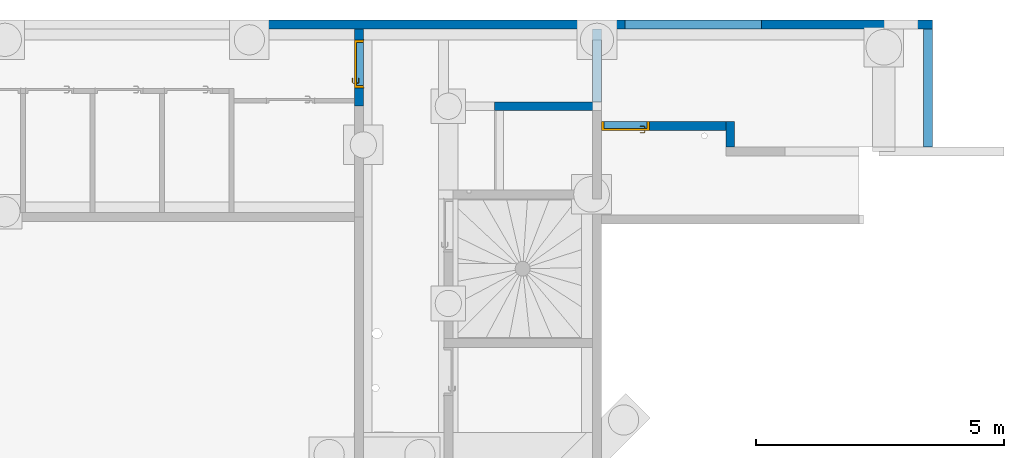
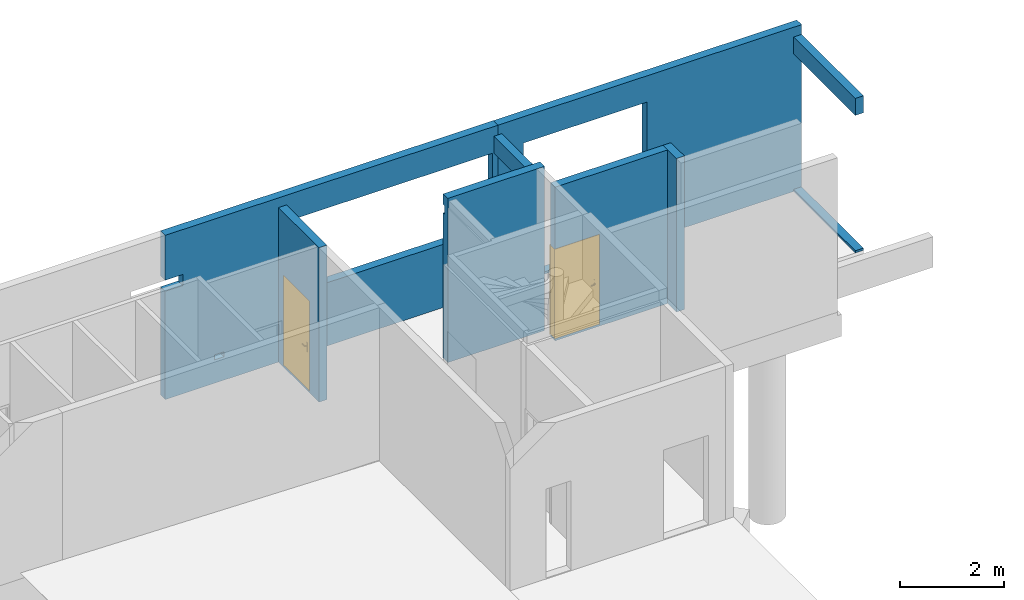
"""IFC2X3 building model written with IfcOpenShell, lengths in centimetres."""

from ifc_helpers import new_model, entity, si_unit, converted_unit, derived_unit, direction, frame, frame_2d, origin, place, context, subcontext, project, spatial, rectangle, extrude, faceted_brep, source, transform, mapped, material, material_list, layer, layer_set, layer_usage, type_object, type_shapes, element, fill, save


model = new_model("IFC2X3")

# Units and contexts
model_context = context("Model", 3, precision=0.001, world=origin(), true_north=direction((6.12303176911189e-17, 1.0)))
body_context = subcontext(model_context, "Body", "Model", "MODEL_VIEW")
ifc_project = project(units=[si_unit("LENGTHUNIT", "METRE", prefix="CENTI"), si_unit("AREAUNIT", "SQUARE_METRE"), si_unit("VOLUMEUNIT", "CUBIC_METRE"), converted_unit("PLANEANGLEUNIT", "DEGREE", entity("IfcRatioMeasure", 0.0174532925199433), si_unit("PLANEANGLEUNIT", "RADIAN"), dimensions=[0, 0, 0, 0, 0, 0, 0]), si_unit("MASSUNIT", "GRAM", prefix="KILO"), derived_unit("MASSDENSITYUNIT", [(si_unit("MASSUNIT", "GRAM", prefix="KILO"), 1), (si_unit("LENGTHUNIT", "METRE"), -3)]), si_unit("TIMEUNIT", "SECOND"), si_unit("FREQUENCYUNIT", "HERTZ"), si_unit("THERMODYNAMICTEMPERATUREUNIT", "DEGREE_CELSIUS"), derived_unit("THERMALTRANSMITTANCEUNIT", [(si_unit("MASSUNIT", "GRAM", prefix="KILO"), 1), (si_unit("THERMODYNAMICTEMPERATUREUNIT", "KELVIN"), -1), (si_unit("TIMEUNIT", "SECOND"), -3)]), derived_unit("VOLUMETRICFLOWRATEUNIT", [(si_unit("LENGTHUNIT", "METRE"), 3), (si_unit("TIMEUNIT", "SECOND"), -1)]), si_unit("ELECTRICCURRENTUNIT", "AMPERE"), si_unit("ELECTRICVOLTAGEUNIT", "VOLT"), si_unit("POWERUNIT", "WATT"), si_unit("FORCEUNIT", "NEWTON"), si_unit("ILLUMINANCEUNIT", "LUX"), si_unit("LUMINOUSFLUXUNIT", "LUMEN"), si_unit("LUMINOUSINTENSITYUNIT", "CANDELA"), derived_unit("USERDEFINED", [(si_unit("MASSUNIT", "GRAM", prefix="KILO"), -1), (si_unit("LENGTHUNIT", "METRE"), -2), (si_unit("TIMEUNIT", "SECOND"), 3), (si_unit("LUMINOUSFLUXUNIT", "LUMEN"), 1)]), derived_unit("LINEARVELOCITYUNIT", [(si_unit("LENGTHUNIT", "METRE"), 1), (si_unit("TIMEUNIT", "SECOND"), -1)]), si_unit("PRESSUREUNIT", "PASCAL"), derived_unit("USERDEFINED", [(si_unit("LENGTHUNIT", "METRE"), -2), (si_unit("MASSUNIT", "GRAM", prefix="KILO"), 1), (si_unit("TIMEUNIT", "SECOND"), -2)])], contexts=[model_context])

# Site, building, storey
site_placement = place(None, origin())
site = spatial("IfcSite", under=ifc_project, at=site_placement, Name="Default", CompositionType="ELEMENT")
building_placement = place(site_placement, origin())
building = spatial("IfcBuilding", under=site, at=building_placement, Name="CAGE 03", CompositionType="ELEMENT")
storey_1_placement = place(building_placement, frame((0.0, 0.0, -42.0)))
storey_1 = spatial("IfcBuildingStorey", under=building, at=storey_1_placement, Name="+3.58", CompositionType="ELEMENT", Elevation=-42.0000000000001)

# Wall, openings
ifc_material_1 = material(Name="Béton, C25/30")
ifc_layer = layer(ifc_material_1, 18.0)
ifc_layer_set = layer_set([ifc_layer], Name="Mur de base:Voile BA 18")
ifc_layer_usage_1 = layer_usage(ifc_layer_set, "AXIS2", "POSITIVE", -9.0)
wall_type = type_object("IfcWallType", Name="Mur de base:Voile BA 18", PredefinedType="STANDARD", material=ifc_layer_set)
wall_1_placement = place(storey_1_placement, frame((11176.3658201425, 5284.66066607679, -5.0), z_axis=(0.0, 0.0, 1.0), x_axis=(-1.0, 0.0, 0.0)))
wall_1 = element("IfcWallStandardCase", 1, at=wall_1_placement, inside=storey_1, type_object=wall_type, material=ifc_layer_usage_1, Name="Mur de base:Voile BA 18", ObjectType="Mur de base:Voile BA 18", context=body_context, shape_type="SweptSolid", body=[
    extrude(rectangle(XDim=676.999999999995, YDim=17.9999999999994, at=frame_2d((338.499999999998, 1.15463194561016e-13), x_axis=(-1.0, 0.0))), origin(), (0.0, 0.0, 1.0), 387.0),
])
opening_1_placement = place(wall_1_placement, origin())
element("IfcOpeningElement", 2, at=opening_1_placement, cuts=wall_1, Name="Mur de base:Voile BA 18", ObjectType="Opening", context=body_context, shape_type="SweptSolid", body=[
    extrude(rectangle(XDim=319.0, YDim=17.9999999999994, at=frame_2d((0.0, 0.0), x_axis=(0.0, 1.0))), frame((9.0, 9.0, 164.5), z_axis=(0.0, 1.0, 0.0), x_axis=(-1.0, 0.0, 0.0)), (0.0, 0.0, 1.0), 238.499999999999),
])
opening_2_placement = place(wall_1_placement, frame((11176.3658201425, 5284.66066607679, 0.0), z_axis=(0.0, 0.0, 1.0), x_axis=(-1.0, 0.0, 0.0)))
element("IfcOpeningElement", 3, at=opening_2_placement, cuts=wall_1, Name="Mur de base:Voile BA 18", ObjectType="Opening", context=body_context, shape_type="SweptSolid", body=[
    extrude(rectangle(XDim=320.0, YDim=275.000000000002, at=frame_2d((-8.66862137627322e-13, 0.0), x_axis=(0.0, 1.0))), frame((10693.8658201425, 5428.06066607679, 165.0), z_axis=(0.0, -1.0, 0.0), x_axis=(1.0, 0.0, 0.0)), (0.0, 0.0, 1.0), 304.8),
])

# Wall, opening
ifc_layer_usage_2 = layer_usage(ifc_layer_set, "AXIS2", "POSITIVE", -9.0)
wall_2_placement = place(storey_1_placement, frame((10499.3658201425, 5275.66066607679, -5.0), z_axis=(0.0, 0.0, 1.0), x_axis=(0.0, -1.0, 0.0)))
wall_2 = element("IfcWallStandardCase", 4, at=wall_2_placement, inside=storey_1, type_object=wall_type, material=ifc_layer_usage_2, Name="Mur de base:Voile BA 18", ObjectType="Mur de base:Voile BA 18", context=body_context, shape_type="SweptSolid", body=[
    extrude(rectangle(XDim=146.999999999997, YDim=17.9999999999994, at=frame_2d((73.4999999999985, 9.9475983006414e-14), x_axis=(-1.0, 0.0))), origin(), (0.0, 0.0, 1.0), 364.0),
])
opening_3_placement = place(wall_2_placement, frame((5275.66066607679, -10499.3658201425, 0.0), z_axis=(0.0, 0.0, 1.0), x_axis=(0.0, 1.0, 0.0)))
element("IfcOpeningElement", 5, at=opening_3_placement, cuts=wall_2, Name="Mur de base:Voile BA 18", ObjectType="Opening", context=body_context, shape_type="SweptSolid", body=[
    extrude(rectangle(XDim=319.0, YDim=147.0, at=frame_2d((0.0, -4.33431068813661e-13), x_axis=(1.0, 0.0))), frame((10337.9658201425, 5202.16066607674, 164.5), z_axis=(1.0, 0.0, 0.0), x_axis=(0.0, 0.0, 1.0)), (0.0, 0.0, 1.0), 304.8),
])

# Wall, openings
ifc_layer_usage_3 = layer_usage(ifc_layer_set, "AXIS2", "POSITIVE", -9.0)
wall_3_placement = place(storey_1_placement, frame((10508.3658201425, 5119.66066607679, -5.0), z_axis=(0.0, 0.0, 1.0), x_axis=(-1.0, 0.0, 0.0)))
wall_3 = element("IfcWallStandardCase", 6, at=wall_3_placement, inside=storey_1, type_object=wall_type, material=ifc_layer_usage_3, Name="Mur de base:Voile BA 18", ObjectType="Mur de base:Voile BA 18", context=body_context, shape_type="SweptSolid", body=[
    extrude(rectangle(XDim=215.999999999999, YDim=17.9999999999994, at=frame_2d((108.0, -1.28785870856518e-13), x_axis=(-1.0, 0.0))), origin(), (0.0, 0.0, 1.0), 387.0),
])
opening_4_placement = place(storey_1_placement, frame((10508.3658201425, 5119.66066607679, -5.0), z_axis=(0.0, 0.0, 1.0), x_axis=(-1.0, 0.0, 0.0)))
element("IfcOpeningElement", 7, at=opening_4_placement, cuts=wall_3, Name="Mur de base:Voile BA 18:1", ObjectType="Opening", context=body_context, shape_type="SweptSolid", body=[
    extrude(rectangle(XDim=198.0, YDim=5.50000000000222, at=frame_2d((0.0, 4.33209024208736e-13), x_axis=(1.0, 0.0))), frame((117.0, -6.24999999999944, 342.0), z_axis=(0.0, 0.0, 1.0), x_axis=(-1.0, 0.0, 0.0)), (0.0, 0.0, 1.0), 20.0),
])
opening_5_placement = place(wall_3_placement, origin())
element("IfcOpeningElement", 8, at=opening_5_placement, cuts=wall_3, Name="Mur de base:Voile BA 18", ObjectType="Opening", context=body_context, shape_type="SweptSolid", body=[
    extrude(rectangle(XDim=232.0, YDim=17.9999999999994, at=frame_2d((0.0, 0.0), x_axis=(0.0, 1.0))), frame((207.0, 9.0, 116.0), z_axis=(0.0, 1.0, 0.0), x_axis=(-1.0, 0.0, 0.0)), (0.0, 0.0, 1.0), 160.0),
])
opening_6_placement = place(wall_3_placement, origin())
element("IfcOpeningElement", 9, at=opening_6_placement, cuts=wall_3, Name="Mur de base:Voile BA 18", ObjectType="Opening", context=body_context, shape_type="SweptSolid", body=[
    extrude(rectangle(XDim=319.0, YDim=17.9999999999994, at=frame_2d((0.0, 0.0), x_axis=(0.0, 1.0))), frame((9.0, -156.0, 164.5), z_axis=(0.0, 1.0, 0.0), x_axis=(1.0, 0.0, 0.0)), (0.0, 0.0, 1.0), 146.999999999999),
])

# Wall, opening, door
ifc_layer_usage_4 = layer_usage(ifc_layer_set, "AXIS2", "POSITIVE", -9.0)
wall_4_placement = place(storey_1_placement, frame((10019.3658201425, 5119.66066607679, -5.0), z_axis=(0.0, 0.0, 1.0), x_axis=(0.0, 1.0, 0.0)))
wall_4 = element("IfcWallStandardCase", 10, at=wall_4_placement, inside=storey_1, type_object=wall_type, material=ifc_layer_usage_4, Name="Mur de base:Voile BA 18", ObjectType="Mur de base:Voile BA 18", context=body_context, shape_type="SweptSolid", body=[
    extrude(rectangle(XDim=155.999999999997, YDim=17.9999999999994, at=frame_2d((77.9999999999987, 1.64313007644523e-13), x_axis=(-1.0, 0.0))), origin(), (0.0, 0.0, 1.0), 364.0),
])
opening_7_placement = place(wall_4_placement, frame((37.0, -9.0, 5.0)))
opening_7 = element("IfcOpeningElement", 11, at=opening_7_placement, cuts=wall_4, Name="Int. Simple:HB93:1", ObjectType="Opening", context=body_context, shape_type="SweptSolid", body=[
    extrude(rectangle(XDim=210.000000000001, YDim=96.9999999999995, at=frame_2d((105.000000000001, 48.4999999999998), x_axis=(1.0, 0.0))), frame((0.0, 0.0, 0.0), z_axis=(0.0, 1.0, 0.0), x_axis=(0.0, 0.0, 1.0)), (0.0, 0.0, 1.0), 18.0),
])
ifc_material_2 = material(Name="Finition Peinture - Blanc satiné")
ifc_material_3 = material(Name="Bois - Panneau de porte")
ifc_material_4 = material(Name="Bois - Cadre de porte")
ifc_material_list_1 = material_list([ifc_material_2, ifc_material_3, ifc_material_4])
ifc_material_list_2 = material_list([ifc_material_2, ifc_material_3, ifc_material_4])
door_style = type_object("IfcDoorStyle", Name="HB93", ConstructionType="NOTDEFINED", OperationType="SINGLE_SWING_RIGHT", ParameterTakesPrecedence=False, Sizeable=False, material=ifc_material_list_2)
shared_shape = source(origin(), body_context, "Body", "Brep", [
    faceted_brep([(96.5000000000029, -0.500000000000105, 87.0), (96.5000000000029, -0.500000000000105, 108.0), (95.535276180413, -0.500000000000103, 108.399601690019), (94.5000000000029, -0.500000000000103, 108.535898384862), (93.4647238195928, -0.500000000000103, 108.399601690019), (92.5000000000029, -0.500000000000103, 108.0), (92.5000000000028, -0.500000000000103, 87.0), (93.4647238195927, -0.500000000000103, 86.6003983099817), (94.5000000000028, -0.500000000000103, 86.464101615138), (95.5352761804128, -0.500000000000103, 86.6003983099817), (96.5000000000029, 0.0, 108.0), (96.5000000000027, 0.0, 87.0), (95.5352761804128, 0.0, 86.6003983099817), (94.5000000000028, 0.0, 86.464101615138), (93.4647238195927, 0.0, 86.6003983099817), (92.5000000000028, 0.0, 87.0), (92.5000000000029, 0.0, 108.0), (93.4647238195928, 0.0, 108.399601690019), (94.5000000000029, 0.0, 108.535898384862), (95.535276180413, 0.0, 108.399601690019)], [[[0, 1, 2, 3, 4, 5, 6, 7, 8, 9]], [[10, 11, 12, 13, 14, 15, 16, 17, 18, 19]], [[9, 12, 11, 0]], [[8, 13, 12, 9]], [[7, 14, 13, 8]], [[7, 6, 15, 14]], [[15, 6, 5, 16]], [[4, 17, 16, 5]], [[3, 18, 17, 4]], [[2, 19, 18, 3]], [[2, 1, 10, 19]], [[11, 10, 1, 0]]]),
    faceted_brep([(96.5000000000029, 4.0, 87.0), (96.5000000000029, 4.0, 108.0), (95.535276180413, 4.0, 108.399601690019), (94.5000000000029, 4.0, 108.535898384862), (93.4647238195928, 4.0, 108.399601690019), (92.500000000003, 4.0, 108.0), (92.5000000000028, 4.0, 87.0), (93.4647238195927, 4.0, 86.6003983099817), (94.5000000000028, 4.0, 86.464101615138), (95.5352761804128, 4.0, 86.6003983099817), (94.5000000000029, 4.49999999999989, 108.535898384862), (95.535276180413, 4.49999999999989, 108.399601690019), (96.5000000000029, 4.49999999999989, 108.0), (96.5000000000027, 4.49999999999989, 87.0), (95.5352761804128, 4.49999999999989, 86.6003983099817), (94.5000000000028, 4.49999999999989, 86.464101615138), (93.4647238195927, 4.49999999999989, 86.6003983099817), (92.5000000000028, 4.4999999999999, 87.0), (92.5000000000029, 4.4999999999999, 108.0), (93.4647238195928, 4.49999999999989, 108.399601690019)], [[[0, 1, 2, 3, 4, 5, 6, 7, 8, 9]], [[10, 11, 12, 13, 14, 15, 16, 17, 18, 19]], [[4, 19, 18, 5]], [[3, 10, 19, 4]], [[2, 11, 10, 3]], [[2, 1, 12, 11]], [[13, 12, 1, 0]], [[9, 14, 13, 0]], [[8, 15, 14, 9]], [[7, 16, 15, 8]], [[7, 6, 17, 16]], [[17, 6, 5, 18]]]),
    faceted_brep([(94.2974701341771, -0.500000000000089, 100.778044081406), (94.7025298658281, -0.500000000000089, 100.778044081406), (95.100000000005, -0.500000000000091, 100.699999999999), (95.100000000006, -0.500000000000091, 99.2999999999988), (94.7025298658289, -0.500000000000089, 99.221955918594), (94.297470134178, -0.500000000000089, 99.2219559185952), (93.9000000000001, -0.500000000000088, 99.3000000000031), (93.9000000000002, -0.500000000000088, 100.7), (94.7025298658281, -3.10045754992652, 100.778044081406), (95.1000000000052, -3.26509507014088, 100.7), (94.2974701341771, -2.93267631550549, 100.778044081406), (92.9298602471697, -4.30028620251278, 100.778044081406), (93.0976414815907, -4.70534593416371, 100.778044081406), (93.9000000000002, -2.76803879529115, 100.7), (93.9000000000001, -2.76803879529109, 99.3000000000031), (94.297470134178, -2.93267631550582, 99.2219559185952), (94.7025298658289, -3.10045754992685, 99.221955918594), (93.0976414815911, -4.70534593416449, 99.221955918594), (92.9298602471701, -4.30028620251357, 99.2219559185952), (95.100000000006, -3.26509507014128, 99.2999999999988), (93.2622790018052, -5.1028160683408, 100.7), (92.7652227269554, -3.90281606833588, 100.7), (92.7652227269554, -3.90281606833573, 99.3000000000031), (93.2622790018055, -5.10281606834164, 99.2999999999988), (84.4981359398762, -5.10281606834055, 100.7), (84.4981359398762, -4.70534593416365, 100.778044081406), (84.4981359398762, -4.30028620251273, 100.778044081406), (84.4981359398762, -3.90281606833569, 100.699999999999), (84.4981359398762, -3.90281606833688, 99.3000000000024), (84.4981359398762, -4.30028620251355, 99.2219559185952), (84.4981359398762, -4.70534593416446, 99.221955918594), (84.4981359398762, -5.10281606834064, 99.2999999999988), (88.7139980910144, -4.5028160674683, 100.78786867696), (89.2692302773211, -5.1028160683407, 100.7), (88.6316793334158, -3.90281606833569, 100.7), (88.631679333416, -3.90281606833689, 99.3000000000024), (88.7139981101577, -4.50281607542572, 99.2121313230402), (89.2692310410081, -5.10281606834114, 99.2999999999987)], [[[0, 1, 2, 3, 4, 5, 6, 7]], [[2, 1, 8, 9]], [[1, 0, 10, 11, 12, 8]], [[0, 7, 13, 10]], [[14, 13, 7, 6]], [[5, 15, 14, 6]], [[5, 4, 16, 17, 18, 15]], [[3, 19, 16, 4]], [[9, 19, 3, 2]], [[9, 8, 12, 20]], [[10, 13, 21, 11]], [[22, 21, 13, 14]], [[14, 15, 18, 22]], [[16, 19, 23, 17]], [[20, 23, 19, 9]], [[24, 25, 26, 27, 28, 29, 30, 31]], [[32, 25, 33]], [[33, 25, 24]], [[33, 20, 12]], [[11, 34, 32]], [[34, 11, 21]], [[27, 26, 34]], [[32, 26, 25]], [[32, 34, 26]], [[32, 33, 12]], [[11, 32, 12]], [[21, 22, 35, 28, 27, 34]], [[36, 29, 35]], [[30, 36, 37]], [[18, 35, 22]], [[29, 28, 35]], [[30, 37, 31]], [[37, 17, 23]], [[36, 17, 37]], [[36, 18, 17]], [[36, 35, 18]], [[29, 36, 30]], [[23, 20, 33, 24, 31, 37]]]),
    faceted_brep([(94.2974701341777, 4.49999999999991, 99.2219559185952), (94.7025298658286, 4.49999999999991, 99.221955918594), (95.1000000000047, 4.49999999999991, 99.2999999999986), (95.1000000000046, 4.49999999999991, 100.7), (94.7025298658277, 4.49999999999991, 100.778044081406), (94.2974701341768, 4.49999999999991, 100.778044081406), (93.8999999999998, 4.49999999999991, 100.7), (93.900000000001, 4.49999999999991, 99.3000000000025), (93.8999999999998, 6.7485204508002, 100.7), (93.8999999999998, 6.74852045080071, 99.3000000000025), (94.2974701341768, 6.91315797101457, 100.778044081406), (94.7025298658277, 7.0809392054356, 100.778044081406), (93.0838906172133, 8.69957845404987, 100.778044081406), (92.9161093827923, 8.29451872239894, 100.778044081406), (95.1000000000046, 7.24557672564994, 100.7), (95.1000000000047, 7.24557672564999, 99.2999999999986), (94.7025298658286, 7.08093920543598, 99.221955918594), (94.2974701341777, 6.91315797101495, 99.2219559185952), (92.9161093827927, 8.29451872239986, 99.2219559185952), (93.0838906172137, 8.69957845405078, 99.221955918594), (92.751471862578, 7.89704858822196, 100.7), (92.7514718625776, 7.89704858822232, 99.3000000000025), (93.2485281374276, 9.09704858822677, 100.7), (93.2485281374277, 9.09704858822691, 99.2999999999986), (84.4954216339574, 8.29451872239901, 100.778044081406), (84.4954216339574, 8.69957845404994, 100.778044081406), (84.4954216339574, 9.09704858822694, 100.7), (84.4954216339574, 9.09704858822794, 99.2999999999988), (84.4954216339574, 8.6995784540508, 99.221955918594), (84.4954216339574, 8.29451872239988, 99.2219559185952), (84.4954216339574, 7.89704858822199, 99.3000000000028), (84.4954216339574, 7.89704858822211, 100.7), (88.6234467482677, 7.89704858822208, 100.7), (88.6234479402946, 7.89704858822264, 99.3000000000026), (88.7057655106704, 8.49704858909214, 100.78786867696), (89.255479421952, 9.09704858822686, 100.7), (89.2554795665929, 9.09704858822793, 99.2999999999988), (88.7057654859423, 8.49704858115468, 99.2121313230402)], [[[0, 1, 2, 3, 4, 5, 6, 7]], [[8, 9, 7, 6]], [[5, 10, 8, 6]], [[5, 4, 11, 12, 13, 10]], [[3, 14, 11, 4]], [[14, 3, 2, 15]], [[2, 1, 16, 15]], [[1, 0, 17, 18, 19, 16]], [[0, 7, 9, 17]], [[20, 21, 9, 8]], [[8, 10, 13, 20]], [[14, 22, 12, 11]], [[23, 22, 14, 15]], [[15, 16, 19, 23]], [[17, 9, 21, 18]], [[24, 25, 26, 27, 28, 29, 30, 31]], [[21, 20, 32, 31, 30, 33]], [[34, 24, 32]], [[25, 34, 35]], [[13, 32, 20]], [[24, 31, 32]], [[25, 35, 26]], [[35, 12, 22]], [[34, 12, 35]], [[34, 13, 12]], [[34, 32, 13]], [[24, 34, 25]], [[22, 23, 36, 27, 26, 35]], [[37, 28, 36]], [[36, 28, 27]], [[36, 23, 19]], [[18, 33, 37]], [[33, 18, 21]], [[30, 29, 33]], [[37, 29, 28]], [[37, 33, 29]], [[37, 36, 19]], [[18, 37, 19]]]),
    faceted_brep([(100.500000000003, 4.0, 206.5), (100.500000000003, 4.0, 0.0), (10.5000000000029, 4.0, 0.0), (10.5000000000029, 4.0, 206.5), (100.500000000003, 0.0, 206.5), (10.5000000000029, 0.0, 206.5), (10.5000000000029, 0.0, 0.0), (100.500000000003, 0.0, 0.0)], [[[0, 1, 2, 3]], [[4, 5, 6, 7]], [[3, 5, 4, 0]], [[2, 6, 5, 3]], [[1, 7, 6, 2]], [[0, 4, 7, 1]]]),
    faceted_brep([(104.0, 0.0, 0.0), (100.500000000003, 0.0, 0.0), (100.500000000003, 4.0, 0.0), (99.0, 4.0, 0.0), (99.0, 18.0, 0.0), (104.0, 18.0, 0.0), (104.0, 18.0, 210.0), (104.0, 0.0, 210.0), (99.0, 18.0, 205.0), (12.0, 18.0, 205.0), (12.0, 18.0, 0.0), (7.0, 18.0, 0.0), (7.0, 18.0, 210.0), (99.0, 4.0, 205.0), (100.500000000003, 4.0, 206.5), (10.5000000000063, 4.0, 206.5), (10.5000000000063, 4.0, 0.0), (12.0, 4.0, 0.0), (12.0, 4.0, 205.0), (100.500000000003, 0.0, 206.5), (7.0, 0.0, 210.0), (7.0, 0.0, 0.0), (10.5000000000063, 0.0, 0.0), (10.5000000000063, 0.0, 206.5)], [[[0, 1, 2, 3, 4, 5]], [[5, 6, 7, 0]], [[4, 8, 9, 10, 11, 12, 6, 5]], [[3, 13, 8, 4]], [[2, 14, 15, 16, 17, 18, 13, 3]], [[1, 19, 14, 2]], [[0, 7, 20, 21, 22, 23, 19, 1]], [[12, 11, 21, 20]], [[21, 11, 10, 17, 16, 22]], [[18, 17, 10, 9]], [[23, 22, 16, 15]], [[6, 12, 20, 7]], [[13, 18, 9, 8]], [[19, 23, 15, 14]]]),
    faceted_brep([(102.500000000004, 18.0, 0.0), (102.500000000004, 18.5000000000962, 0.0), (105.500000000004, 18.5000000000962, 0.0), (105.500000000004, 18.0, 0.0), (105.500000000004, 18.0, 211.500000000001), (5.50000000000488, 18.0, 211.500000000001), (5.50000000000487, 18.0, 0.0), (8.50000000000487, 18.0, 0.0), (8.50000000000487, 18.0, 208.500000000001), (102.500000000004, 18.0, 208.500000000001), (105.500000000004, 18.5000000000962, 211.500000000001), (102.500000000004, 18.5000000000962, 208.500000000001), (8.50000000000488, 18.5000000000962, 208.500000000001), (8.50000000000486, 18.5000000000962, 0.0), (5.50000000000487, 18.5000000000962, 0.0), (5.50000000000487, 18.5000000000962, 211.500000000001)], [[[0, 1, 2, 3]], [[3, 4, 5, 6, 7, 8, 9, 0]], [[2, 10, 4, 3]], [[1, 11, 12, 13, 14, 15, 10, 2]], [[0, 9, 11, 1]], [[7, 6, 14, 13]], [[8, 7, 13, 12]], [[15, 14, 6, 5]], [[10, 15, 5, 4]], [[9, 8, 12, 11]]]),
    faceted_brep([(105.500000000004, -0.5, 0.0), (105.500000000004, -0.5, 211.500000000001), (5.50000000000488, -0.5, 211.500000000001), (5.50000000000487, -0.5, 0.0), (8.50000000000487, -0.5, 0.0), (8.50000000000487, -0.5, 208.500000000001), (102.500000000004, -0.5, 208.500000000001), (102.500000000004, -0.5, 0.0), (105.500000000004, 0.0, 0.0), (105.500000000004, 0.0, 211.500000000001), (102.500000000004, 0.0, 0.0), (102.500000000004, 0.0, 208.500000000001), (8.50000000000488, 0.0, 208.500000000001), (8.50000000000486, 0.0, 0.0), (5.50000000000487, 0.0, 0.0), (5.50000000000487, 0.0, 211.500000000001)], [[[0, 1, 2, 3, 4, 5, 6, 7]], [[8, 9, 1, 0]], [[10, 11, 12, 13, 14, 15, 9, 8]], [[7, 6, 11, 10]], [[5, 4, 13, 12]], [[15, 14, 3, 2]], [[9, 15, 2, 1]], [[6, 5, 12, 11]], [[4, 3, 14, 13]], [[7, 10, 8, 0]]]),
])
type_shapes(door_style, [shared_shape])
door_1_placement = place(opening_7_placement, frame((104.0, 18.0, 0.0), z_axis=(0.0, 0.0, 1.0), x_axis=(-1.0, 0.0, 0.0)))
door_1 = element("IfcDoor", 12, at=door_1_placement, inside=storey_1, type_object=door_style, material=ifc_material_list_1, Name="Int. Simple:HB93", ObjectType="HB93", OverallHeight=210.000000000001, OverallWidth=96.9999999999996, context=body_context, shape_type="MappedRepresentation", body=[
    mapped(shared_shape, transform((0.0, 0.0, 0.0), scale=1.0)),
])
fill(opening_7, door_1)

# Wall, openings
ifc_layer_usage_5 = layer_usage(ifc_layer_set, "AXIS2", "POSITIVE", -9.0)
wall_5_placement = place(storey_1_placement, frame((10499.3658201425, 5284.66066607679, -5.0), z_axis=(0.0, 0.0, 1.0), x_axis=(-1.0, 0.0, 0.0)))
wall_5 = element("IfcWallStandardCase", 13, at=wall_5_placement, inside=storey_1, type_object=wall_type, material=ifc_layer_usage_5, Name="Mur de base:Voile BA 18", ObjectType="Mur de base:Voile BA 18", context=body_context, shape_type="SweptSolid", body=[
    extrude(rectangle(XDim=741.499999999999, YDim=17.9999999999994, at=frame_2d((370.75, 1.77635683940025e-13), x_axis=(-1.0, 0.0))), origin(), (0.0, 0.0, 1.0), 387.0),
])
opening_8_placement = place(storey_1_placement, frame((10499.3658201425, 5284.66066607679, -5.0), z_axis=(0.0, 0.0, 1.0), x_axis=(-1.0, 0.0, 0.0)))
element("IfcOpeningElement", 14, at=opening_8_placement, cuts=wall_5, Name="Mur de base:Voile BA 18:1", ObjectType="Opening", context=body_context, shape_type="SweptSolid", body=[
    extrude(rectangle(XDim=18.0000000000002, YDim=21.9999999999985, at=frame_2d((8.66862137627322e-13, -8.65973959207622e-13), x_axis=(1.0, 0.0))), frame((621.0, 0.0, 55.0), z_axis=(0.0, 0.0, 1.0), x_axis=(0.0, 1.0, 0.0)), (0.0, 0.0, 1.0), 12.0),
])
opening_9_placement = place(wall_5_placement, origin())
element("IfcOpeningElement", 15, at=opening_9_placement, cuts=wall_5, Name="Mur de base:Voile BA 18", ObjectType="Opening", context=body_context, shape_type="SweptSolid", body=[
    extrude(rectangle(XDim=25.9999999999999, YDim=116.0, at=frame_2d((1.33226762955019e-14, 8.66862137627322e-13), x_axis=(1.0, 0.0))), frame((760.0, -143.400000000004, 268.0), z_axis=(0.0, 1.0, 0.0), x_axis=(0.0, 0.0, -1.0)), (0.0, 0.0, 1.0), 304.8),
])
opening_10_placement = place(wall_5_placement, origin())
element("IfcOpeningElement", 16, at=opening_10_placement, cuts=wall_5, Name="Mur de base:Voile BA 18", ObjectType="Opening", context=body_context, shape_type="SweptSolid", body=[
    extrude(rectangle(XDim=210.000000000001, YDim=9.99999999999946, at=frame_2d((-8.66418048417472e-13, -7.105427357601e-15), x_axis=(0.0, 1.0))), frame((1298.0, 9.0, 110.0), z_axis=(0.0, 1.0, 0.0), x_axis=(1.0, 0.0, 0.0)), (0.0, 0.0, 1.0), 96.9999999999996),
])
opening_11_placement = place(wall_5_placement, frame((10499.3658201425, 5284.66066607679, 0.0), z_axis=(0.0, 0.0, 1.0), x_axis=(-1.0, 0.0, 0.0)))
element("IfcOpeningElement", 17, at=opening_11_placement, cuts=wall_5, Name="Mur de base:Voile BA 18", ObjectType="Opening", context=body_context, shape_type="SweptSolid", body=[
    extrude(rectangle(XDim=176.0, YDim=455.999999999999, at=frame_2d((8.66862137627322e-13, -1.4210854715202e-14), x_axis=(0.0, 1.0))), frame((10259.3658201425, 5428.06066607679, 237.0), z_axis=(0.0, -1.0, 0.0), x_axis=(1.0, 0.0, 0.0)), (0.0, 0.0, 1.0), 304.8),
])

# Wall
ifc_layer_usage_6 = layer_usage(ifc_layer_set, "AXIS2", "POSITIVE", -9.0)
wall_6_placement = place(storey_1_placement, frame((10768.3658201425, 5088.66066607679, -5.0), z_axis=(0.0, 0.0, 1.0), x_axis=(0.0, -1.0, 0.0)))
element("IfcWallStandardCase", 18, at=wall_6_placement, inside=storey_1, type_object=wall_type, material=ifc_layer_usage_6, Name="Mur de base:Voile BA 18", ObjectType="Mur de base:Voile BA 18", context=body_context, shape_type="SweptSolid", body=[
    extrude(rectangle(XDim=51.4999999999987, YDim=17.9999999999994, at=frame_2d((25.7499999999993, 6.48370246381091e-14), x_axis=(-1.0, 0.0))), origin(), (0.0, 0.0, 1.0), 362.0),
])

# Wall, opening
ifc_layer_usage_7 = layer_usage(ifc_layer_set, "AXIS2", "POSITIVE", -9.0)
wall_7_placement = place(storey_1_placement, frame((10759.3658201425, 5079.66066607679, -5.0), z_axis=(0.0, 0.0, 1.0), x_axis=(-1.0, 0.0, 0.0)))
wall_7 = element("IfcWallStandardCase", 19, at=wall_7_placement, inside=storey_1, type_object=wall_type, material=ifc_layer_usage_7, Name="Mur de base:Voile BA 18", ObjectType="Mur de base:Voile BA 18", context=body_context, shape_type="SweptSolid", body=[
    extrude(rectangle(XDim=250.999999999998, YDim=17.9999999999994, at=frame_2d((125.499999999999, 3.93463039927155e-13), x_axis=(-1.0, 0.0))), origin(), (0.0, 0.0, 1.0), 362.0),
])
opening_12_placement = place(wall_7_placement, frame((154.0, -9.0, 5.0)))
opening_12 = element("IfcOpeningElement", 20, at=opening_12_placement, cuts=wall_7, Name="Int. Simple:HB93:1", ObjectType="Opening", context=body_context, shape_type="SweptSolid", body=[
    extrude(rectangle(XDim=210.000000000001, YDim=96.9999999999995, at=frame_2d((105.000000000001, 48.4999999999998), x_axis=(1.0, 0.0))), frame((0.0, 0.0, 0.0), z_axis=(0.0, 1.0, 0.0), x_axis=(0.0, 0.0, 1.0)), (0.0, 0.0, 1.0), 18.0),
])

# Storey
storey_2_placement = place(building_placement, frame((0.0, 0.0, -400.0)))
storey_2 = spatial("IfcBuildingStorey", under=building, at=storey_2_placement, Name="±0.00", CompositionType="ELEMENT", Elevation=-400.0)

# Door
ifc_material_list_3 = material_list([ifc_material_2, ifc_material_3, ifc_material_4])
door_2_placement = place(opening_12_placement, frame((104.0, 18.0, 0.0), z_axis=(0.0, 0.0, 1.0), x_axis=(-1.0, 0.0, 0.0)))
door_2 = element("IfcDoor", 21, at=door_2_placement, inside=storey_2, type_object=door_style, material=ifc_material_list_3, Name="Int. Simple:HB93", ObjectType="HB93", OverallHeight=210.000000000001, OverallWidth=96.9999999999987, context=body_context, shape_type="MappedRepresentation", body=[
    mapped(shared_shape, transform((0.0, 0.0, 0.0), scale=1.0)),
])

fill(opening_12, door_2)

# Wall, opening
ifc_layer_usage_8 = layer_usage(ifc_layer_set, "AXIS2", "NEGATIVE", 9.0)
wall_8_placement = place(storey_1_placement, frame((11167.3658201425, 5275.66066607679, -5.0), z_axis=(0.0, 0.0, 1.0), x_axis=(0.0, -1.0, 0.0)))
wall_8 = element("IfcWallStandardCase", 22, at=wall_8_placement, inside=storey_1, type_object=wall_type, material=ifc_layer_usage_8, Name="Mur de base:Voile BA 18", ObjectType="Mur de base:Voile BA 18", context=body_context, shape_type="SweptSolid", body=[
    extrude(rectangle(XDim=238.499999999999, YDim=17.9999999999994, at=frame_2d((119.25, 2.96651592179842e-13), x_axis=(-1.0, 0.0))), origin(), (0.0, 0.0, 1.0), 364.0),
])
opening_13_placement = place(wall_8_placement, frame((5275.66066607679, -11167.3658201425, 0.0), z_axis=(0.0, 0.0, 1.0), x_axis=(0.0, 1.0, 0.0)))
element("IfcOpeningElement", 23, at=opening_13_placement, cuts=wall_8, Name="Mur de base:Voile BA 18", ObjectType="Opening", context=body_context, shape_type="SweptSolid", body=[
    extrude(rectangle(XDim=319.0, YDim=238.499999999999, at=frame_2d((0.0, 0.0), x_axis=(0.0, 1.0))), frame((11023.9658201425, 5156.41066607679, 164.5), z_axis=(1.0, 0.0, 0.0), x_axis=(0.0, 1.0, 0.0)), (0.0, 0.0, 1.0), 304.8),
])

save(model, "model.ifc")
